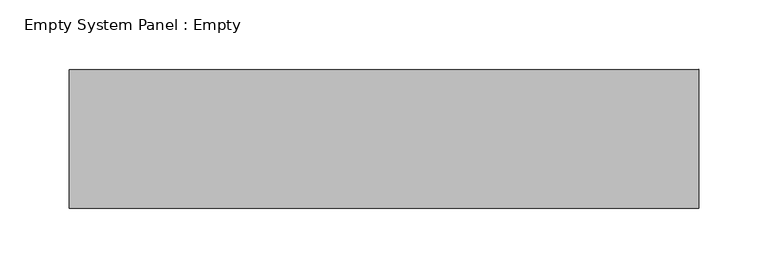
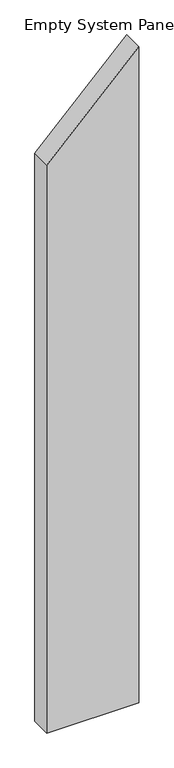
"""IFC4 building model written with IfcOpenShell, lengths in millimetres: plate geometry, Empty System Panel : Empty."""

import ifcopenshell
import ifcopenshell.guid

model = None  # the IFC model being written
_history = None  # IfcOwnerHistory: only IFC2X3 demands one
_inside = {}  # id of a spatial element -> (the spatial element, [elements in it])
_under = {}  # id of a project, library or spatial element -> (it, [spatial elements below it])
_declared = {}  # id of a project -> (the project, [libraries it declares])
_typed = {}  # id of a type object -> (the type object, [elements of that type])
_made_of = {}  # id of a material, layer set ... -> (it, [elements and type objects made of it])


def new_model(schema):
    """Start an empty IFC model of exactly this schema.

    Asked for "IFC4X3", IfcOpenShell would pick the latest addendum, in which some entities
    have other attributes; the version numbers below select the first issue.
    IFC2X3 requires an IfcOwnerHistory on every rooted entity: one is made here for all.
    """
    global model, _history
    if schema == "IFC4X3":
        model = ifcopenshell.file(schema_version=(4, 3, 0, 0))
    else:
        model = ifcopenshell.file(schema=schema)
    _inside.clear()
    _under.clear()
    _declared.clear()
    _typed.clear()
    _made_of.clear()
    _history = None
    if model.schema == "IFC2X3":
        org = make("IfcOrganization", Name="unknown")
        user = make(
            "IfcPersonAndOrganization",
            ThePerson=make("IfcPerson", FamilyName="unknown"),
            TheOrganization=org,
        )
        app = make(
            "IfcApplication",
            ApplicationDeveloper=org,
            Version="unknown",
            ApplicationFullName="unknown",
            ApplicationIdentifier="unknown",
        )
        _history = make(
            "IfcOwnerHistory",
            OwningUser=user,
            OwningApplication=app,
            ChangeAction="ADDED",
            CreationDate=0,
        )
    return model


def make(cls, **values):
    """One entity of the class cls with the attributes given. An attribute that is None is left unset."""
    return model.create_entity(
        cls, **{name: value for name, value in values.items() if value is not None}
    )


def rooted(cls, **values):
    """An entity with a GlobalId (a new one), such as an element, a storey or a relation."""
    return make(cls, GlobalId=ifcopenshell.guid.new(), OwnerHistory=_history, **values)


def si_unit(unit_type, name, prefix=None):
    """IfcSIUnit, for example si_unit("LENGTHUNIT", "METRE", prefix="MILLI")."""
    return make("IfcSIUnit", UnitType=unit_type, Prefix=prefix, Name=name)


def assignment(units):
    """IfcUnitAssignment: the units of a project."""
    return None if units is None else make("IfcUnitAssignment", Units=units)


def point(xyz):
    """IfcCartesianPoint."""
    return None if xyz is None else make("IfcCartesianPoint", Coordinates=xyz)


def direction(xyz):
    """IfcDirection."""
    return None if xyz is None else make("IfcDirection", DirectionRatios=xyz)


def frame(location, z_axis=None, x_axis=None):
    """IfcAxis2Placement3D, a coordinate frame: its origin and axes. An axis left out is left unset."""
    return make(
        "IfcAxis2Placement3D",
        Location=point(location),
        Axis=direction(z_axis),
        RefDirection=direction(x_axis),
    )


def origin():
    """The frame at (0, 0, 0) with its axes left unset."""
    return frame((0.0, 0.0, 0.0))


def place(relative_to, where):
    """IfcLocalPlacement: puts the frame where relative to a parent placement (None: the world)."""
    return make(
        "IfcLocalPlacement", PlacementRelTo=relative_to, RelativePlacement=where
    )


def context(
    kind, dimensions, precision=None, world=None, true_north=None, identifier=None
):
    """IfcGeometricRepresentationContext, for example the 3D "Model" context."""
    return make(
        "IfcGeometricRepresentationContext",
        ContextIdentifier=identifier,
        ContextType=kind,
        CoordinateSpaceDimension=dimensions,
        Precision=precision,
        WorldCoordinateSystem=world,
        TrueNorth=true_north,
    )


def project(units=None, contexts=None):
    """IfcProject with its units and contexts."""
    return rooted(
        "IfcProject",
        Name="project",
        RepresentationContexts=contexts,
        UnitsInContext=assignment(units),
    )


def spatial(cls, under=None, at=None, **own):
    """A site, building, storey or space (cls), placed at a placement, below another one or the project."""
    s = rooted(cls, ObjectPlacement=at, **own)
    if under is not None:
        _under.setdefault(under.id(), (under, []))[1].append(s)
    return s


def polyline(points):
    """IfcPolyline through the points."""
    return make("IfcPolyline", Points=[point(p) for p in points])


def outline(outer, holes=None, kind="AREA"):
    """IfcArbitraryClosedProfileDef: a profile drawn as a closed curve; with holes, ...WithVoids."""
    if holes is None:
        return make("IfcArbitraryClosedProfileDef", ProfileType=kind, OuterCurve=outer)
    return make(
        "IfcArbitraryProfileDefWithVoids",
        ProfileType=kind,
        OuterCurve=outer,
        InnerCurves=holes,
    )


def extrude(swept, where, along, depth):
    """IfcExtrudedAreaSolid: the profile swept, set in the frame where, extruded along a direction by depth."""
    return make(
        "IfcExtrudedAreaSolid",
        SweptArea=swept,
        Position=where,
        ExtrudedDirection=direction(along),
        Depth=depth,
    )


def shape(context_of_items, identifier, shape_type, items):
    """IfcShapeRepresentation: the items that make up one representation, for example the "Body"."""
    return make(
        "IfcShapeRepresentation",
        ContextOfItems=context_of_items,
        RepresentationIdentifier=identifier,
        RepresentationType=shape_type,
        Items=items,
    )


def source(mapping_origin, context_of_items, identifier, shape_type, items):
    """IfcRepresentationMap: a shape defined once, which mapped items show again and again."""
    return make(
        "IfcRepresentationMap",
        MappingOrigin=mapping_origin,
        MappedRepresentation=shape(context_of_items, identifier, shape_type, items),
    )


def transform(
    local_origin,
    x_axis=None,
    y_axis=None,
    z_axis=None,
    scale=None,
    scale2=None,
    scale3=None,
    uniform=True,
):
    """IfcCartesianTransformationOperator3D, or its non-uniform kind. x_axis, y_axis, z_axis: its Axis1, 2, 3."""
    if uniform:
        return make(
            "IfcCartesianTransformationOperator3D",
            Axis1=direction(x_axis),
            Axis2=direction(y_axis),
            LocalOrigin=point(local_origin),
            Scale=scale,
            Axis3=direction(z_axis),
        )
    return make(
        "IfcCartesianTransformationOperator3DnonUniform",
        Axis1=direction(x_axis),
        Axis2=direction(y_axis),
        LocalOrigin=point(local_origin),
        Scale=scale,
        Axis3=direction(z_axis),
        Scale2=scale2,
        Scale3=scale3,
    )


def mapped(mapping_source, mapping_target):
    """IfcMappedItem: shows the shape of a source again, moved by a transform."""
    return make(
        "IfcMappedItem", MappingSource=mapping_source, MappingTarget=mapping_target
    )


def made_of(thing, what):
    """Note that an element or type object is made of a material, layer set ...; save() writes the relation."""
    if what is not None:
        _made_of.setdefault(what.id(), (what, []))[1].append(thing)
    return thing


def element(
    cls,
    number,
    at=None,
    inside=None,
    cuts=None,
    type_object=None,
    material=None,
    context=None,
    identifier="Body",
    shape_type=None,
    held_by="IfcProductDefinitionShape",
    body=None,
    shapes=None,
    **own,
):
    """One element of the class cls, such as IfcWall. Its Tag is "e" and its number.

    at: its placement. inside: the storey or other place that contains it. cuts: it is an
    opening in that element (IfcRelVoidsElement). A single representation is given by context,
    identifier, shape_type and body (its items); several are given by shapes. held_by: the class
    of the entity that holds the representations. save() writes the other relations.
    """
    e = rooted(cls, Tag="e%d" % number, ObjectPlacement=at, **own)
    if body is not None:
        shapes = [shape(context, identifier, shape_type, body)]
    if shapes is not None:
        e.Representation = make(held_by, Representations=shapes)
    if inside is not None:
        _inside.setdefault(inside.id(), (inside, []))[1].append(e)
    if cuts is not None:
        rooted(
            "IfcRelVoidsElement", RelatingBuildingElement=cuts, RelatedOpeningElement=e
        )
    if type_object is not None:
        _typed.setdefault(type_object.id(), (type_object, []))[1].append(e)
    return made_of(e, material)


def aggregate(whole, parts):
    """IfcRelAggregates: a whole, such as a stair, and the parts it consists of."""
    return rooted("IfcRelAggregates", RelatingObject=whole, RelatedObjects=parts)


def save(model, path):
    """Write the relations noted so far, then the file.

    IfcRelAggregates (storeys below a building ...), IfcRelContainedInSpatialStructure (elements
    in a storey), IfcRelDefinesByType, IfcRelAssociatesMaterial and IfcRelDeclares: one each for
    every whole, place, type object, material and project.
    """
    for whole, parts in _under.values():
        aggregate(whole, parts)
    for where, things in _inside.values():
        rooted(
            "IfcRelContainedInSpatialStructure",
            RelatedElements=things,
            RelatingStructure=where,
        )
    for kind, things in _typed.values():
        rooted("IfcRelDefinesByType", RelatedObjects=things, RelatingType=kind)
    for what, things in _made_of.values():
        rooted("IfcRelAssociatesMaterial", RelatedObjects=things, RelatingMaterial=what)
    for by, libraries in _declared.values():
        rooted("IfcRelDeclares", RelatingContext=by, RelatedDefinitions=libraries)
    model.write(path)


def empty_system_panel_empty_f74433ea(model_context):
    return source(origin(), model_context, "Body", "SweptSolid", [
        extrude(outline(polyline([(0.0, -226.4404253), (0.0, 226.4404253), (3411.6548141, 226.4404253), (2953.7073947, -226.4404253), (0.0, -226.4404253)])), frame((0.0, -50.0, 0.0), z_axis=(0.0, 1.0, 0.0), x_axis=(0.0, 0.0, 1.0)), (0.0, 0.0, 1.0), 100.0),
    ])


if __name__ == "__main__":
    model = new_model("IFC4")
    model_context = context("Model", 3, world=origin())
    ifc_project = project(units=[si_unit("LENGTHUNIT", "METRE", prefix="MILLI")], contexts=[model_context])
    site = spatial("IfcSite", under=ifc_project)
    building = spatial("IfcBuilding", under=site)
    placement = place(None, origin())
    empty_system_panel_empty_shape = empty_system_panel_empty_f74433ea(model_context)
    element("IfcPlate", 1, ObjectType="Empty System Panel : Empty", at=placement, inside=building, context=model_context, shape_type="MappedRepresentation", body=[
        mapped(empty_system_panel_empty_shape, transform((0.0, 0.0, 0.0), x_axis=(1.0, 0.0, 0.0), y_axis=(0.0, 1.0, 0.0), z_axis=(0.0, 0.0, 1.0))),
    ])
    save(model, "model.ifc")
